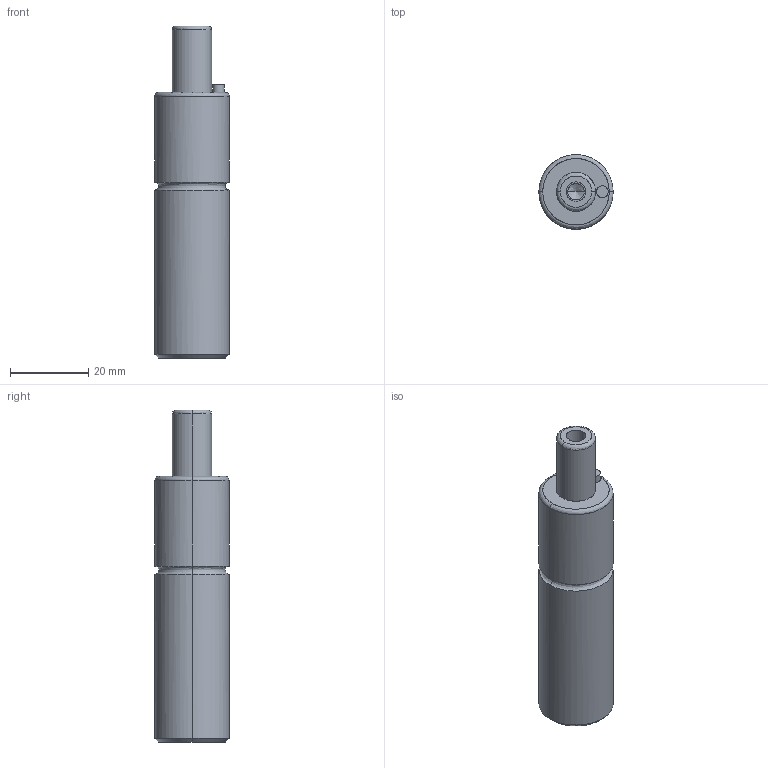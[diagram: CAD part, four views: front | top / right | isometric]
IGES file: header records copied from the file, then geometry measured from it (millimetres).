
Global section: file name: E:\UnigraphicsGraphicData\MISUMI_PRESS-PARTS\IGES\3d_gsm19-15_03944_r00.igs; native system: NX V5.0; preprocessor: UGS NX IGES V5.0; author: MISUMI; date: 20110105.160804; units: millimetre
Bounding box: 19 x 18.99 x 85 mm (x, y, z)
Surface area: 5478.3 mm2 (no closed solid volume)
Topology: 0 solids, 0 shells, 34 faces, 208 edges, 204 vertices
Faces by surface type: bspline 34
